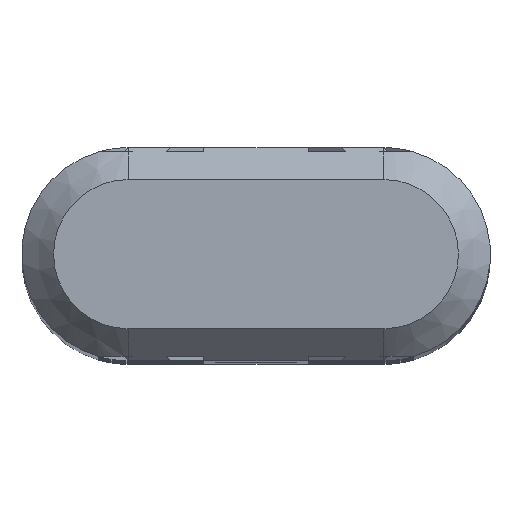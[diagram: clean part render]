
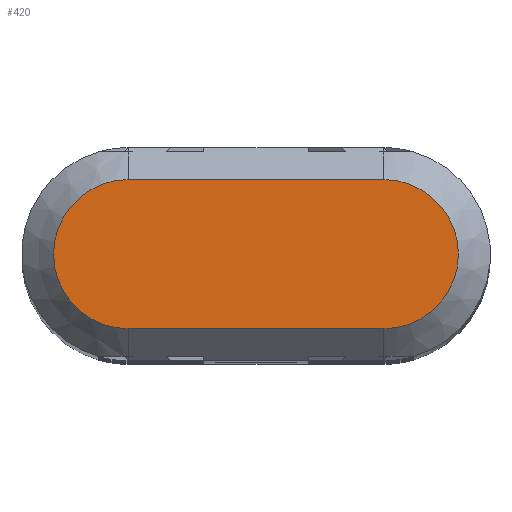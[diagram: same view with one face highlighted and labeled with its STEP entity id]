
A CAD part, top view. The second image highlights one B-rep face of the part: STEP entity #420.
In plain terms, the highlighted planar face has unit normal (0, 0, 1).
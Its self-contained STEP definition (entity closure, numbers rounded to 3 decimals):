
#10=CARTESIAN_POINT('',(13.869,4.044,
-3.));
#20=DIRECTION('',(0.,0.,1.));
#30=DIRECTION('',(1.,0.,0.));
#40=AXIS2_PLACEMENT_3D('',#10,#20,#30);
#50=PLANE('',#40);
#60=CARTESIAN_POINT('',(13.869,7.544,
-3.));
#70=DIRECTION('',(-1.,0.,0.));
#80=VECTOR('',#70,1.);
#90=LINE('',#60,#80);
#100=CARTESIAN_POINT('',(19.869,7.544,
-3.));
#110=VERTEX_POINT('',#100);
#120=CARTESIAN_POINT('',(7.869,7.544,
-3.));
#130=VERTEX_POINT('',#120);
#140=EDGE_CURVE('',#110,#130,#90,.T.);
#150=ORIENTED_EDGE('',*,*,#140,.T.);
#160=CARTESIAN_POINT('',(19.869,4.044,
-3.));
#170=DIRECTION('',(0.,0.,1.));
#180=DIRECTION('',(1.,0.,-0.));
#190=AXIS2_PLACEMENT_3D('',#160,#170,#180);
#200=CIRCLE('',#190,3.5);
#210=CARTESIAN_POINT('',(19.869,0.544,
-3.));
#220=VERTEX_POINT('',#210);
#230=EDGE_CURVE('',#220,#110,#200,.T.);
#240=ORIENTED_EDGE('',*,*,#230,.T.);
#250=CARTESIAN_POINT('',(13.869,0.544,
-3.));
#260=DIRECTION('',(1.,0.,0.));
#270=VECTOR('',#260,1.);
#280=LINE('',#250,#270);
#290=CARTESIAN_POINT('',(7.869,0.544,
-3.));
#300=VERTEX_POINT('',#290);
#310=EDGE_CURVE('',#300,#220,#280,.T.);
#320=ORIENTED_EDGE('',*,*,#310,.T.);
#330=CARTESIAN_POINT('',(7.869,4.044,
-3.));
#340=DIRECTION('',(0.,0.,1.));
#350=DIRECTION('',(1.,0.,-0.));
#360=AXIS2_PLACEMENT_3D('',#330,#340,#350);
#370=CIRCLE('',#360,3.5);
#380=EDGE_CURVE('',#130,#300,#370,.T.);
#390=ORIENTED_EDGE('',*,*,#380,.T.);
#400=EDGE_LOOP('',(#390,#320,#240,#150));
#410=FACE_OUTER_BOUND('',#400,.T.);
#420=ADVANCED_FACE('',(#410),#50,.T.);
